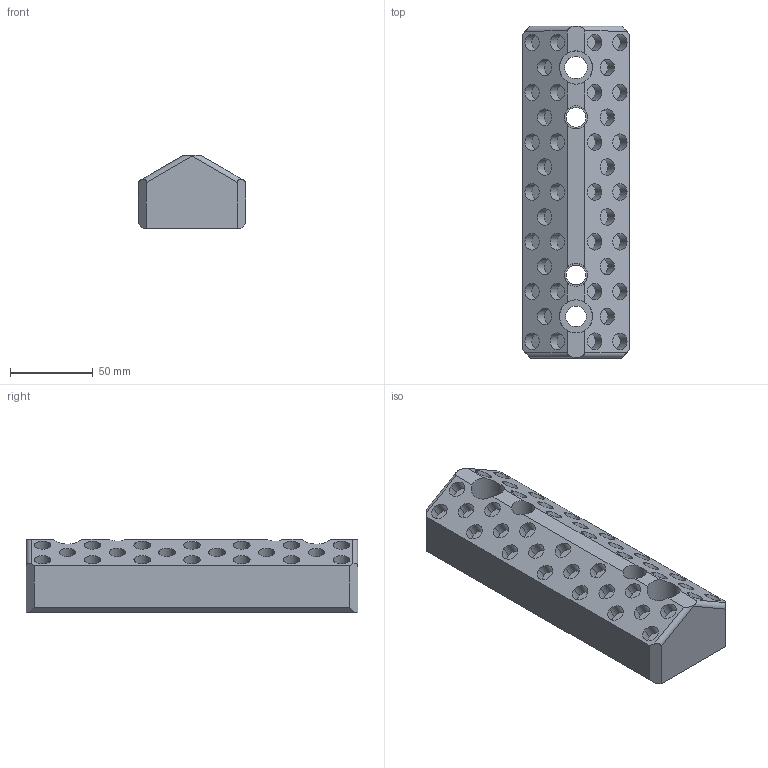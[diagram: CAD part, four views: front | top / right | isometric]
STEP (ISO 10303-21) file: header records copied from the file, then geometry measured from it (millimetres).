
FILE_DESCRIPTION (( 'STEP AP214' ), '1' );
FILE_NAME ('SW232-03-65x200.STEP', '2020-10-21T09:10:32', ( 'August' ), ( '' ), 'SwSTEP 2.0', 'SolidWorks 2018', '' );
FILE_SCHEMA (( 'AUTOMOTIVE_DESIGN' ));
Length unit declared in the file: millimetre
Products named in the file (1): SW232-03-65x200
Bounding box: 65 x 200 x 44 mm (x, y, z)
Volume: 425679.5 mm3; surface area: 59646.1 mm2
Topology: 1 solids, 1 shells, 164 faces, 364 edges, 242 vertices
Faces by surface type: cylinder 100, plane 62, sphere 2
Entity records: 5604 total; most frequent: CARTESIAN_POINT 1277, DIRECTION 856, ORIENTED_EDGE 728, EDGE_CURVE 364, AXIS2_PLACEMENT_3D 357, VERTEX_POINT 242, EDGE_LOOP 212, CIRCLE 192
